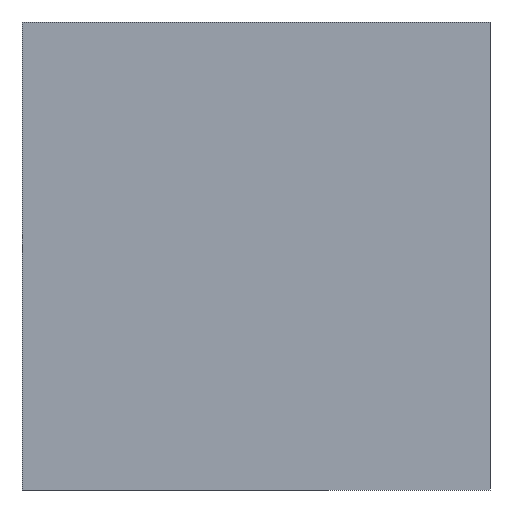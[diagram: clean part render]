
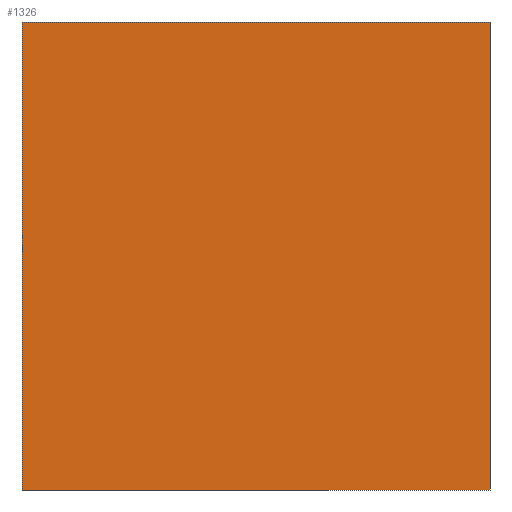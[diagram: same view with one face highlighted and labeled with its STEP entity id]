
A CAD part, left-side view. The second image highlights one B-rep face of the part: STEP entity #1326.
In plain terms, the highlighted planar face has unit normal (-1, 0, 0).
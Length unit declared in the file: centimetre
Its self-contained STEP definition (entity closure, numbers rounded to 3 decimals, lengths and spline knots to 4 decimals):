
#13 = VECTOR ( 'NONE', #1294, 100. ) ;
#20 = LINE ( 'NONE', #1462, #250 ) ;
#23 = AXIS2_PLACEMENT_3D ( 'NONE', #886, #1343, #1111 ) ;
#56 = ORIENTED_EDGE ( 'NONE', *, *, #1349, .T. ) ;
#162 = PLANE ( 'NONE',  #23 ) ;
#167 = CARTESIAN_POINT ( 'NONE',  ( 0., 0., 1000. ) ) ;
#173 = VERTEX_POINT ( 'NONE', #844 ) ;
#180 = EDGE_CURVE ( 'NONE', #1216, #1549, #334, .T. ) ;
#250 = VECTOR ( 'NONE', #261, 100. ) ;
#261 = DIRECTION ( 'NONE',  ( 0., -1., 0. ) ) ;
#283 = CARTESIAN_POINT ( 'NONE',  ( 0., 0., 1000. ) ) ;
#334 = LINE ( 'NONE', #704, #13 ) ;
#380 = CARTESIAN_POINT ( 'NONE',  ( 0., 1000., 1000. ) ) ;
#388 = CARTESIAN_POINT ( 'NONE',  ( 0., 1000., 1000. ) ) ;
#410 = ORIENTED_EDGE ( 'NONE', *, *, #180, .F. ) ;
#429 = ORIENTED_EDGE ( 'NONE', *, *, #1451, .T. ) ;
#515 = DIRECTION ( 'NONE',  ( 0., 0., -1. ) ) ;
#552 = VECTOR ( 'NONE', #760, 100. ) ;
#623 = LINE ( 'NONE', #388, #552 ) ;
#641 = VECTOR ( 'NONE', #515, 100. ) ;
#704 = CARTESIAN_POINT ( 'NONE',  ( 0., 1000., 1000. ) ) ;
#745 = EDGE_LOOP ( 'NONE', ( #56, #1501, #410, #429 ) ) ;
#760 = DIRECTION ( 'NONE',  ( 0., 0., -1. ) ) ;
#844 = CARTESIAN_POINT ( 'NONE',  ( 0., 0., 0. ) ) ;
#869 = FACE_OUTER_BOUND ( 'NONE', #745, .T. ) ;
#886 = CARTESIAN_POINT ( 'NONE',  ( 0., 1000., 1000. ) ) ;
#993 = LINE ( 'NONE', #283, #641 ) ;
#1011 = VERTEX_POINT ( 'NONE', #1537 ) ;
#1111 = DIRECTION ( 'NONE',  ( 0., 0., -1. ) ) ;
#1216 = VERTEX_POINT ( 'NONE', #380 ) ;
#1294 = DIRECTION ( 'NONE',  ( 0., -1., 0. ) ) ;
#1326 = ADVANCED_FACE ( 'NONE', ( #869 ), #162, .F. ) ;
#1343 = DIRECTION ( 'NONE',  ( 1., 0., 0. ) ) ;
#1349 = EDGE_CURVE ( 'NONE', #1011, #173, #20, .T. ) ;
#1451 = EDGE_CURVE ( 'NONE', #1216, #1011, #623, .T. ) ;
#1462 = CARTESIAN_POINT ( 'NONE',  ( 0., 1000., 0. ) ) ;
#1501 = ORIENTED_EDGE ( 'NONE', *, *, #1540, .F. ) ;
#1537 = CARTESIAN_POINT ( 'NONE',  ( 0., 1000., 0. ) ) ;
#1540 = EDGE_CURVE ( 'NONE', #1549, #173, #993, .T. ) ;
#1549 = VERTEX_POINT ( 'NONE', #167 ) ;
